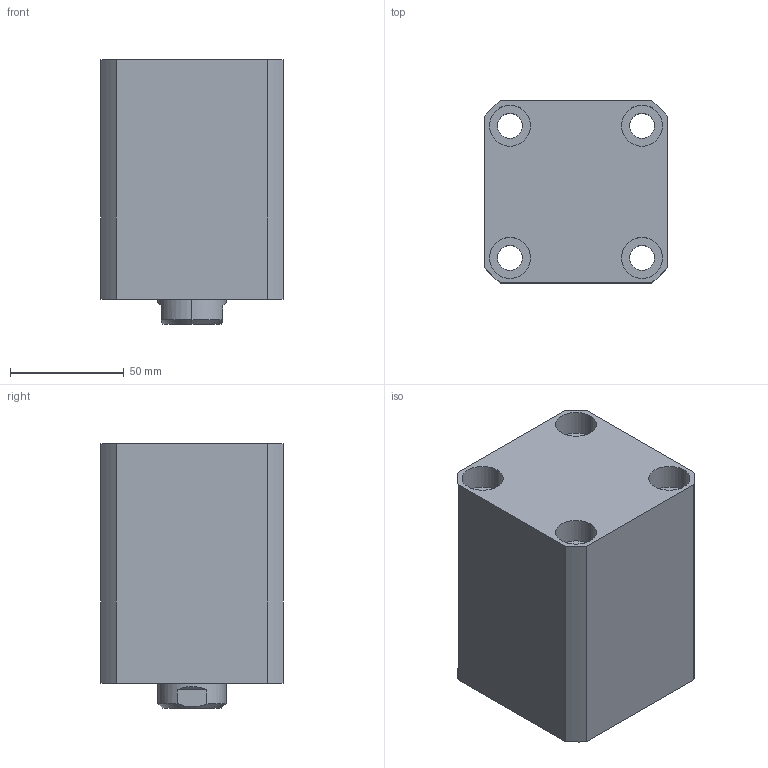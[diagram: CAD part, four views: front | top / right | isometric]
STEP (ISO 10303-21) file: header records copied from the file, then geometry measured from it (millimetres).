
FILE_DESCRIPTION (( 'STEP AP203' ), '1' );
FILE_NAME ('CHTB-SDMA50-45N.STEP', '2018-05-19T01:55:07', ( '' ), ( '' ), 'SwSTEP 2.0', 'SolidWorks 2015', '' );
FILE_SCHEMA (( 'CONFIG_CONTROL_DESIGN' ));
Length unit declared in the file: millimetre
Products named in the file (5): M6; 掛极SDMA50-45N; CHTB-SDMA50-45N; 活塞杆SDMA50-45N; CHTM-SDMA50QG
Assembly tree (5 placements, depth 2):
  CHTB-SDMA50-45N
    掛极SDMA50-45N
    活塞杆SDMA50-45N
    CHTM-SDMA50QG
    M6  x2
Bounding box: 80 x 80 x 116 mm (x, y, z)
Volume: 545682.8 mm3; surface area: 110719.8 mm2
Topology: 5 solids, 5 shells, 270 faces, 703 edges, 464 vertices
Faces by surface type: cylinder 139, plane 58, cone 31, bspline 26, torus 16
Entity records: 14133 total; most frequent: CARTESIAN_POINT 8131, ORIENTED_EDGE 1208, DIRECTION 1054, EDGE_CURVE 604, AXIS2_PLACEMENT_3D 433, VERTEX_POINT 403, EDGE_LOOP 277, ADVANCED_FACE 235
